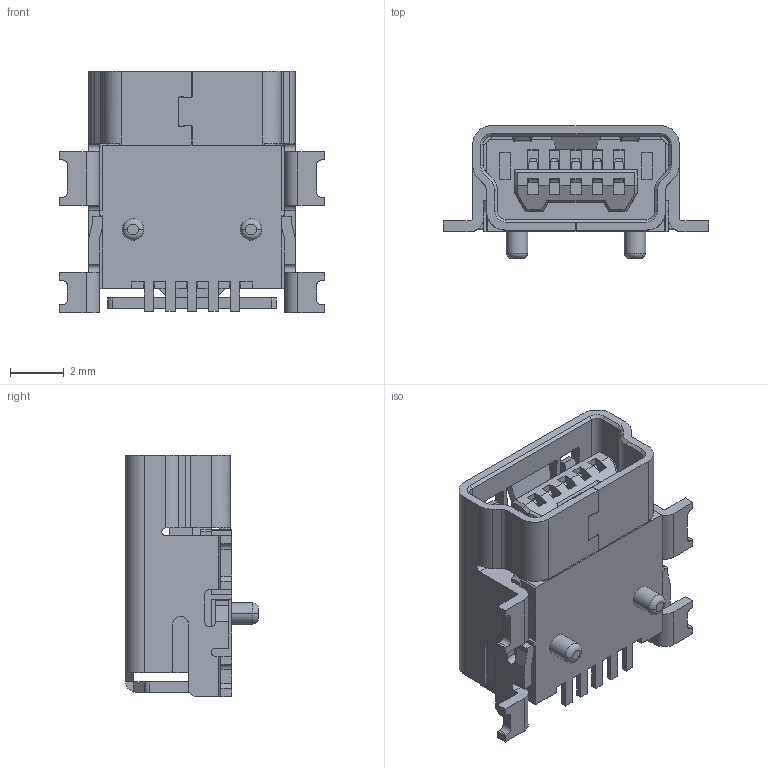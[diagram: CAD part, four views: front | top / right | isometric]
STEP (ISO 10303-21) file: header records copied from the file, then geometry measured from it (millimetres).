
FILE_DESCRIPTION (( 'STEP AP214' ), '1' );
FILE_NAME ('67503-1020.STEP', '2021-11-19T10:43:51', ( '' ), ( '' ), 'SwSTEP 2.0', 'SolidWorks 2018', '' );
FILE_SCHEMA (( 'AUTOMOTIVE_DESIGN' ));
Length unit declared in the file: inch
Products named in the file (1): 67503-1020
Bounding box: 9.9 x 4.95 x 9 mm (x, y, z)
Volume: 158.7 mm3; surface area: 583.1 mm2
Topology: 1 solids, 1 shells, 564 faces, 1647 edges, 1071 vertices
Faces by surface type: plane 415, cylinder 117, bspline 24, cone 8
Entity records: 26660 total; most frequent: CARTESIAN_POINT 4360, ORIENTED_EDGE 3294, DIRECTION 2866, EDGE_CURVE 1647, LINE 1312, VECTOR 1312, VERTEX_POINT 1071, AXIS2_PLACEMENT_3D 777
